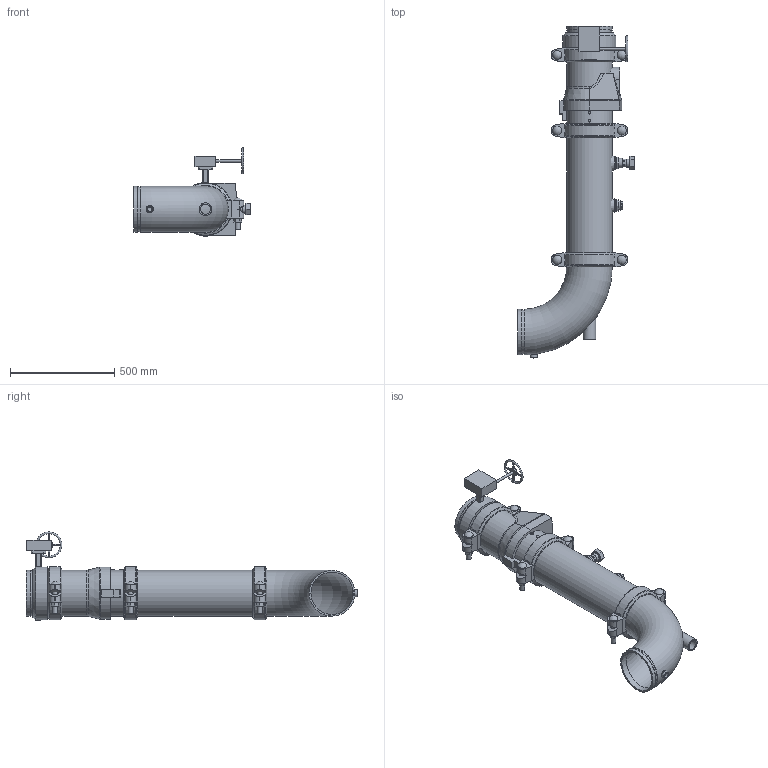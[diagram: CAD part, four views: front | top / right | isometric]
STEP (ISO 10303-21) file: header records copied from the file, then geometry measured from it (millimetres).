
FILE_DESCRIPTION(/* description */ ('VIC DVI PUMP DROP HORZ S/380G (OGSxOGS)','CAx-IF Rec.Pracs.---Representation and Presentation of Product Manufacturing Information (PMI)---4.0---2014-10-13'),/* implementation_level */ '2;1');
FILE_NAME(/* name */ 'C:\Users\kkamble\AppData\Roaming\Autodesk\ApplicationPlugins\Victaulic.Temp\A789\Victaulic_IPS_Horizontal DVI_CL 150_Series 380 (OGSxOGS)_924 (1.25)_08.0x08.0 (200x200).stp',/* time_stamp */ '2021-07-06T09:54:01+05:00',/* author */ ('Vjadhav'),/* organization */ ('Victaulic'),/* preprocessor_version */ 'ST-DEVELOPER v17.2',/* originating_system */ 'Autodesk Inventor 2019',/* authorisation */ '');
FILE_SCHEMA (('AP242_MANAGED_MODEL_BASED_3D_ENGINEERING_MIM_LF { 1 0 10303 442 1 1 4 }'));
Length unit declared in the file: inch
Products named in the file (8): 380_924 (1.25)-08.0x08.0; Pipe-08.0x08.0; 177N-08.0; 924-04.0x01.25; 923-04.0x0.75; 779-08.0; 761-08.0; 100G-08.0
Assembly tree (9 placements, depth 2):
  380_924 (1.25)-08.0x08.0
    177N-08.0  x3
    Pipe-08.0x08.0
    924-04.0x01.25
    923-04.0x0.75
    779-08.0
    761-08.0
    100G-08.0
Bounding box: 557.09 x 1589.21 x 422.39 mm (x, y, z)
Volume: 18029233.9 mm3; surface area: 3137529.7 mm2
Topology: 9 solids, 11 shells, 581 faces, 1508 edges, 1010 vertices
Faces by surface type: plane 346, cylinder 187, torus 22, cone 18, sphere 6, bspline 2
Full cylindrical faces by diameter (mm): 8.636 x4, 12.446 x1, 12.7 x1, 13.716 x4, 20.93 x1, 21.336 x1, 22.86 x1, 23.774 x6, 26.67 x4, 34.29 x1, 38.608 x1, 39.125 x1, 42.164 x1, 42.85 x6, 45.974 x4, 48.26 x1, 48.514 x1, 55.118 x1, 55.626 x2, 60.96 x1, 202.717 x5, 206.375 x3, 214.401 x8, 219.075 x19, 254 x1
Entity records: 13603 total; most frequent: CARTESIAN_POINT 3036, DIRECTION 2154, ORIENTED_EDGE 1996, EDGE_CURVE 998, AXIS2_PLACEMENT_3D 820, VERTEX_POINT 674, LINE 514, VECTOR 514
